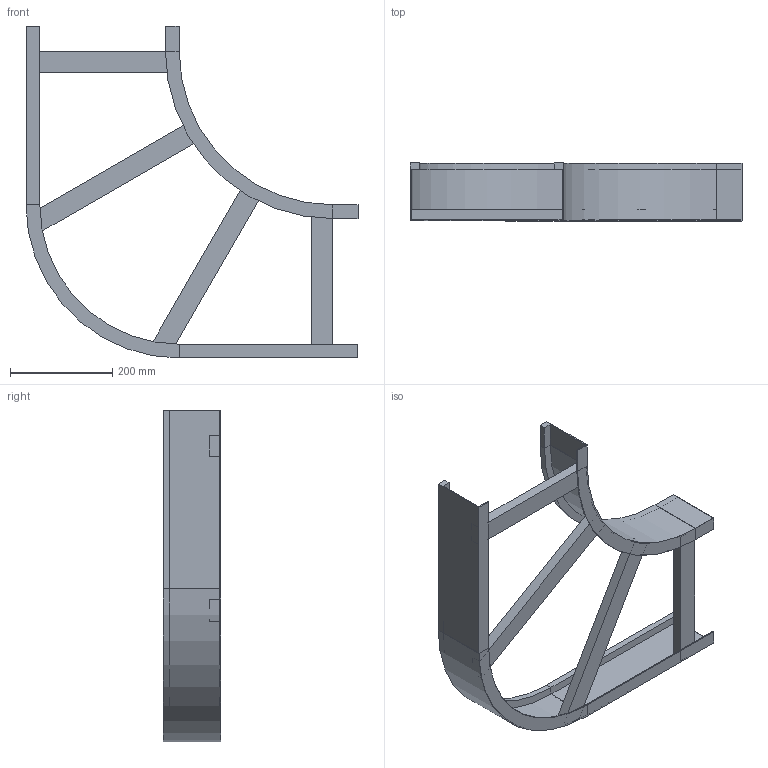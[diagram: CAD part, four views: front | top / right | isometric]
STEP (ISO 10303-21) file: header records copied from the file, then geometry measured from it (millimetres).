
FILE_DESCRIPTION (( 'STEP AP214' ), '1' );
FILE_NAME ('B2_10B3J300.step', '2025-02-21T15:25:10', ( '' ), ( '' ), 'SwSTEP 2.0', 'SolidWorks 2023', '' );
FILE_SCHEMA (( 'AUTOMOTIVE_DESIGN' ));
Length unit declared in the file: millimetre
Products named in the file (5): TRAVERSINO_400_SCANTONATO; B2_10B3J300; TRAVERSINO_300; B2_LONGH.INTERNO 90°_H112.5_R300; B2_LONGH.ESTERNO 90°_H112.5_R300+300
Assembly tree (6 placements, depth 2):
  B2_10B3J300
    B2_LONGH.INTERNO 90°_H112.5_R300
    B2_LONGH.ESTERNO 90°_H112.5_R300+300
    TRAVERSINO_300  x2
    TRAVERSINO_400_SCANTONATO  x2
Bounding box: 650 x 112.5 x 650 mm (x, y, z)
Volume: 1915337.1 mm3; surface area: 714940.4 mm2
Topology: 6 solids, 6 shells, 76 faces, 160 edges, 96 vertices
Faces by surface type: plane 68, cylinder 8
Entity records: 1830 total; most frequent: DIRECTION 298, CARTESIAN_POINT 289, ORIENTED_EDGE 272, EDGE_CURVE 136, LINE 120, VECTOR 120, AXIS2_PLACEMENT_3D 89, VERTEX_POINT 80
